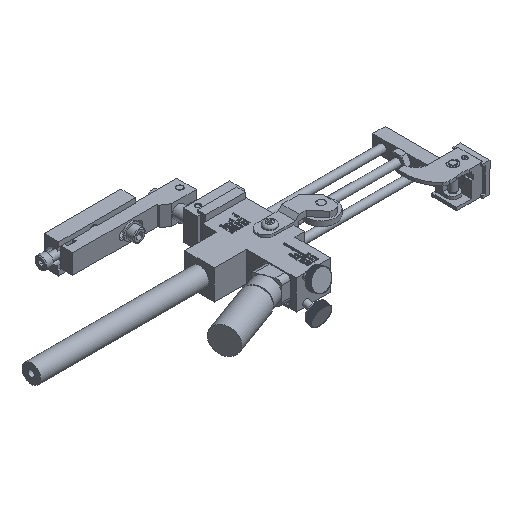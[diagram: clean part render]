
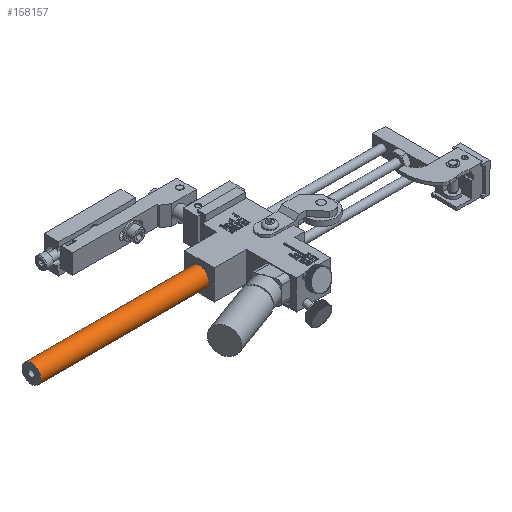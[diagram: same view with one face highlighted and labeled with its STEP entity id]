
A CAD part, isometric view. The second image highlights one B-rep face of the part: STEP entity #158157.
In plain terms, the highlighted cylindrical face has radius 5.969 mm (diameter 11.938 mm), a full revolution.
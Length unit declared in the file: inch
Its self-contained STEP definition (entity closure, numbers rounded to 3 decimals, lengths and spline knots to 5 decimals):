
#157875=CARTESIAN_POINT('',(-1.4995,0.8125,0.61));
#157876=VERTEX_POINT('',#157875);
#157877=CARTESIAN_POINT('',(-1.4995,0.8125,0.375));
#157878=DIRECTION('',(1.0,0.0,0.0));
#157879=DIRECTION('',(0.0,0.0,-1.0));
#157880=AXIS2_PLACEMENT_3D('',#157877,#157878,#157879);
#157881=CIRCLE('',#157880,0.235);
#157882=EDGE_CURVE('',#157876,#157876,#157881,.T.);
#158123=CARTESIAN_POINT('',(-5.7495,0.8125,0.61));
#158124=VERTEX_POINT('',#158123);
#158125=CARTESIAN_POINT('',(-5.7495,0.8125,0.375));
#158126=DIRECTION('',(1.0,0.0,0.0));
#158127=DIRECTION('',(0.0,0.0,-1.0));
#158128=AXIS2_PLACEMENT_3D('',#158125,#158126,#158127);
#158129=CIRCLE('',#158128,0.235);
#158130=EDGE_CURVE('',#158124,#158124,#158129,.T.);
#158146=CARTESIAN_POINT('',(-1.4995,0.8125,0.375));
#158147=DIRECTION('',(-1.0,0.,0.));
#158148=DIRECTION('',(0.0,0.0,-1.0));
#158149=AXIS2_PLACEMENT_3D('',#158146,#158147,#158148);
#158150=CYLINDRICAL_SURFACE('',#158149,0.235);
#158151=ORIENTED_EDGE('',*,*,#158130,.T.);
#158152=EDGE_LOOP('',(#158151));
#158153=FACE_OUTER_BOUND('',#158152,.T.);
#158154=ORIENTED_EDGE('',*,*,#157882,.F.);
#158155=EDGE_LOOP('',(#158154));
#158156=FACE_BOUND('',#158155,.T.);
#158157=ADVANCED_FACE('',(#158153,#158156),#158150,.T.);
